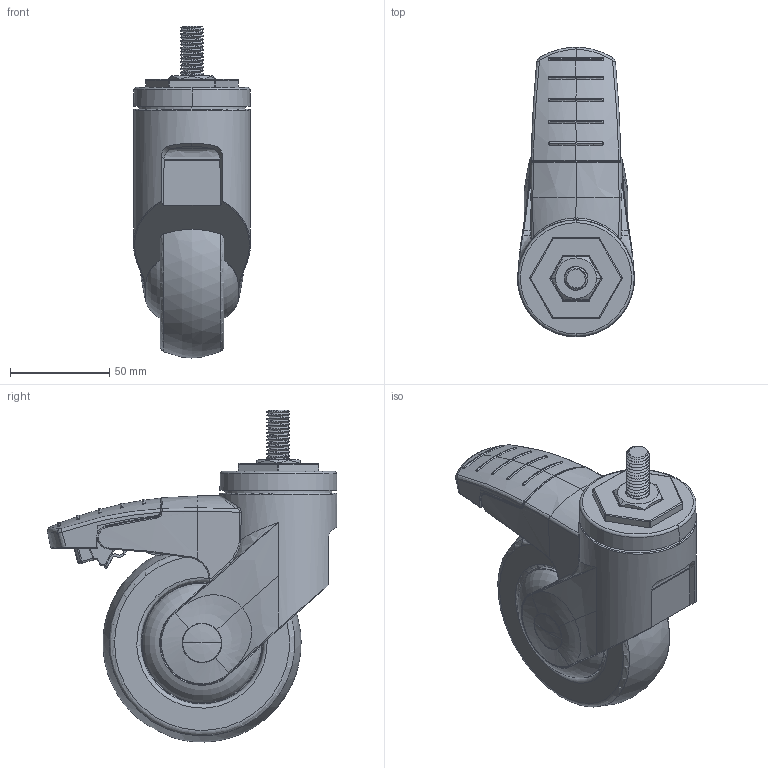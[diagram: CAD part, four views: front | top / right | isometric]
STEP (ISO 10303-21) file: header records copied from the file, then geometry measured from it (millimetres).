
FILE_DESCRIPTION((''),'2;1');
FILE_NAME('QUAN-SUO-XIACHE-ZHIZHA-100_16','2019-01-12T18:09:46',('Administrator'),(''),'CREO PARAMETRIC BY PTC INC, 2016510','CREO PARAMETRIC BY PTC INC, 2016510','');
FILE_SCHEMA(('CONFIG_CONTROL_DESIGN'));
Length unit declared in the file: millimetre
Products named in the file (1): QUAN-SUO-XIACHE-ZHIZHA-100_16
Bounding box: 59 x 146.18 x 167.56 mm (x, y, z)
Volume: 536630.6 mm3; surface area: 62302.1 mm2
Topology: 1 solids, 3 shells, 554 faces, 1477 edges, 916 vertices
Faces by surface type: bspline 197, cylinder 161, plane 99, torus 46, extrusion 28, sphere 14, cone 9
Entity records: 29221 total; most frequent: CARTESIAN_POINT 17694, ORIENTED_EDGE 2918, DIRECTION 1599, EDGE_CURVE 1459, VERTEX_POINT 916, B_SPLINE_CURVE_WITH_KNOTS 851, AXIS2_PLACEMENT_3D 606, EDGE_LOOP 567
